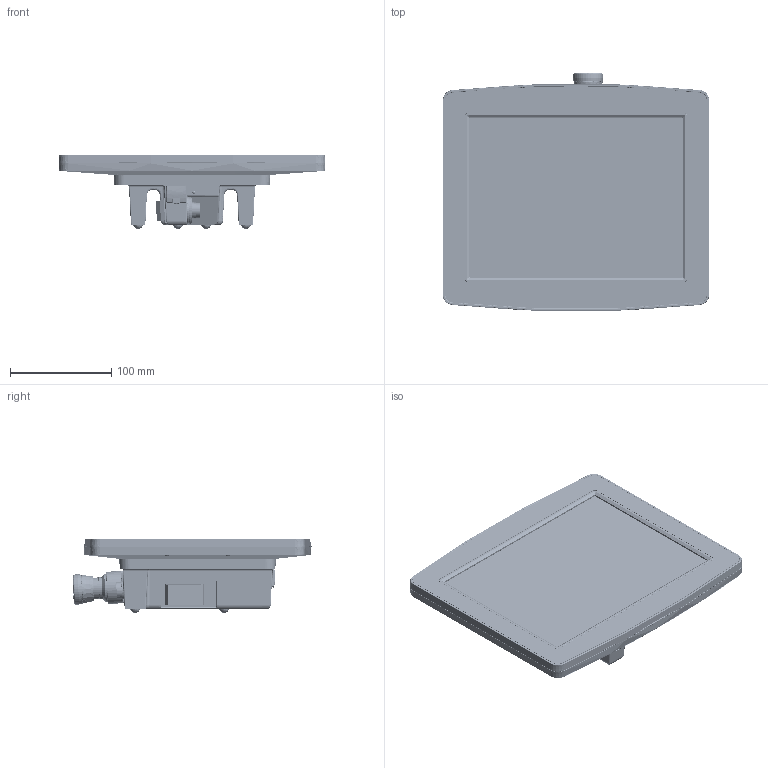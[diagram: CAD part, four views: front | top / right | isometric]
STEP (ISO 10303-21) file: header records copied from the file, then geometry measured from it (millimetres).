
FILE_DESCRIPTION (( 'STEP AP214' ), '1' );
FILE_NAME ('HGT 10Zoll 03.02.2015.STEP', '2015-02-03T13:21:57', ( 'SIGMATEK GmbH & Co KG' ), ( 'SIGMATEK GmbH & Co KG' ), 'SwSTEP 2.0', 'SolidWorks 2013', '' );
FILE_SCHEMA (( 'AUTOMOTIVE_DESIGN' ));
Length unit declared in the file: millimetre
Products named in the file (1): HGT 10Zoll 03.02.2015
Bounding box: 263.87 x 236.68 x 73.25 mm (x, y, z)
Volume: 750080.6 mm3; surface area: 579221 mm2
Topology: 91 solids, 96 shells, 14317 faces, 35940 edges, 21434 vertices
Faces by surface type: plane 6077, cylinder 3711, bspline 2422, torus 985, cone 604, sphere 518
Entity records: 643364 total; most frequent: CARTESIAN_POINT 164559, ORIENTED_EDGE 70462, DIRECTION 62680, EDGE_CURVE 35231, AXIS2_PLACEMENT_3D 22051, VERTEX_POINT 21410, VECTOR 18578, LINE 18578
